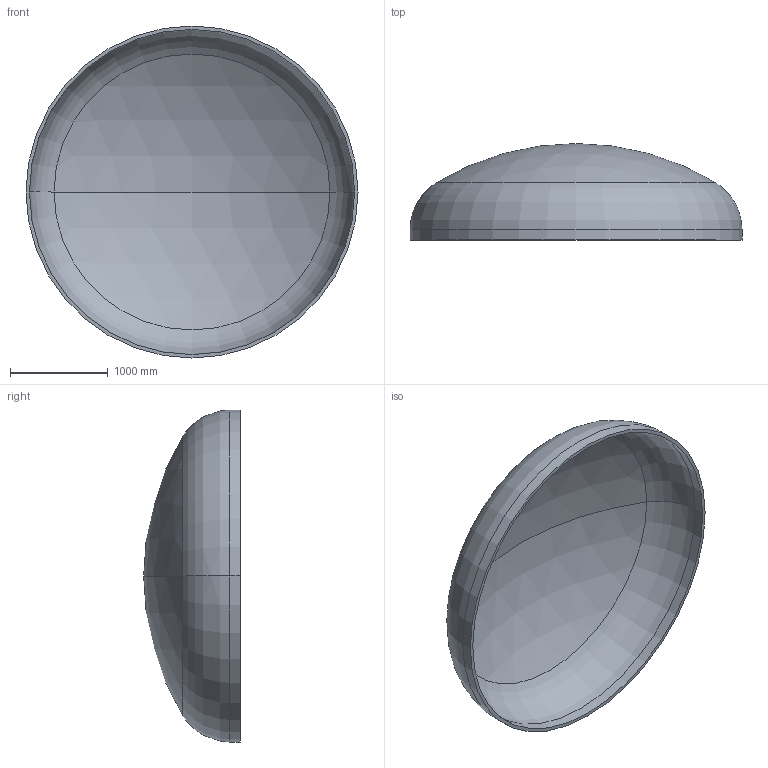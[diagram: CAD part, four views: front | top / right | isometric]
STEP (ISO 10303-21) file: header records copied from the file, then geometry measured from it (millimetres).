
FILE_DESCRIPTION (( 'STEP AP203' ), '1' );
FILE_NAME ('DIN 28013 Korbbogenform_-_Boden DIN 28013 - 3400 x 110 - I - s=35.step', '2016-07-01T19:25:54', ( '' ), ( '' ), 'SwSTEP 2.0', 'SolidWorks 2013', '' );
FILE_SCHEMA (( 'CONFIG_CONTROL_DESIGN' ));
Length unit declared in the file: millimetre
Products named in the file (1): DIN 28013 Korbbogenform_-_Boden DIN 28013 - 3400 x 110 - I - s=35
Bounding box: 3400 x 989.25 x 3400 mm (x, y, z)
Volume: 475086753.9 mm3; surface area: 27520371.3 mm2
Topology: 1 solids, 1 shells, 13 faces, 24 edges, 14 vertices
Faces by surface type: torus 4, cylinder 4, sphere 4, plane 1
Entity records: 407 total; most frequent: DIRECTION 72, CARTESIAN_POINT 52, ORIENTED_EDGE 48, AXIS2_PLACEMENT_3D 34, EDGE_CURVE 24, CIRCLE 20, EDGE_LOOP 14, VERTEX_POINT 14
